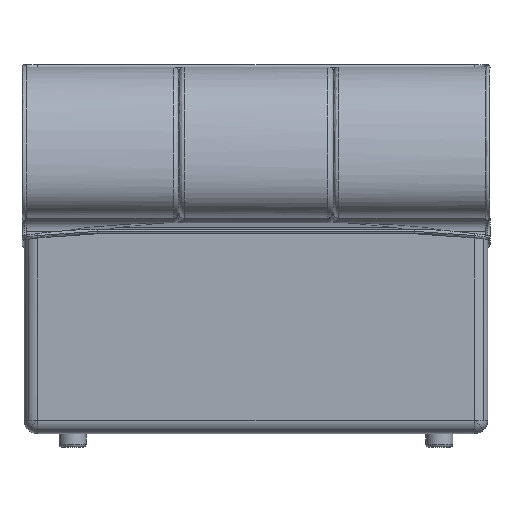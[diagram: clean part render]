
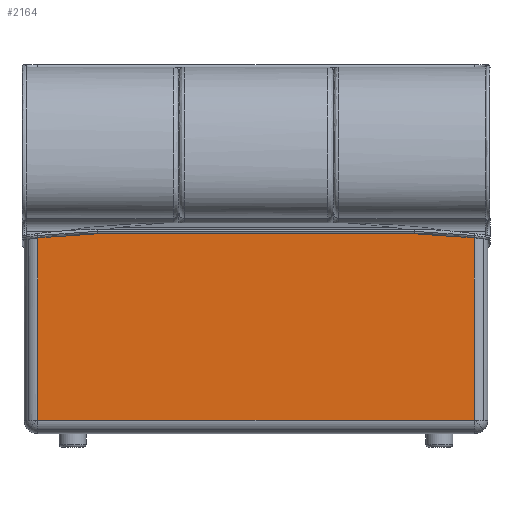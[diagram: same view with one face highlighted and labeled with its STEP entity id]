
A CAD part, front view. The second image highlights one B-rep face of the part: STEP entity #2164.
In plain terms, the highlighted planar face has unit normal (0, -1, 0).
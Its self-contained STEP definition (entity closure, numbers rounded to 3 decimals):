
#269 = VERTEX_POINT ( 'NONE', #5469 ) ;
#307 = EDGE_CURVE ( 'NONE', #2105, #6539, #4071, .T. ) ;
#342 = DIRECTION ( 'NONE',  ( 0., 0., 1. ) ) ;
#360 = CARTESIAN_POINT ( 'NONE',  ( -1294.447, -1880., 363.055 ) ) ;
#680 = DIRECTION ( 'NONE',  ( 1., 0., 0. ) ) ;
#935 = CARTESIAN_POINT ( 'NONE',  ( -1295., -1880., 25. ) ) ;
#951 = CARTESIAN_POINT ( 'NONE',  ( -1295., -1880., 362.978 ) ) ;
#1052 = CARTESIAN_POINT ( 'NONE',  ( -485., -1880., 25. ) ) ;
#1171 = CARTESIAN_POINT ( 'NONE',  ( -1184.008, -1880., 370.752 ) ) ;
#1372 = CARTESIAN_POINT ( 'NONE',  ( -1295., -1880., 362.978 ) ) ;
#1588 = B_SPLINE_CURVE_WITH_KNOTS ( 'NONE', 3,
 ( #7733, #2983, #2444, #3661 ),
 .UNSPECIFIED., .F., .F.,
 ( 4, 4 ),
 ( 0., 0.001 ),
 .UNSPECIFIED. ) ;
#1853 = ORIENTED_EDGE ( 'NONE', *, *, #7361, .F. ) ;
#1982 = CARTESIAN_POINT ( 'NONE',  ( -485., -1880., 399.775 ) ) ;
#2018 = CARTESIAN_POINT ( 'NONE',  ( -485., -1880., 362.979 ) ) ;
#2105 = VERTEX_POINT ( 'NONE', #8616 ) ;
#2161 = CARTESIAN_POINT ( 'NONE',  ( -1294.816, -1880., 363.004 ) ) ;
#2164 = ADVANCED_FACE ( 'NONE', ( #6772 ), #2710, .F. ) ;
#2384 = ORIENTED_EDGE ( 'NONE', *, *, #2988, .F. ) ;
#2431 = AXIS2_PLACEMENT_3D ( 'NONE', #5426, #4678, #680 ) ;
#2444 = CARTESIAN_POINT ( 'NONE',  ( -485.184, -1880., 363.005 ) ) ;
#2638 = CARTESIAN_POINT ( 'NONE',  ( -522.137, -1880., 368.159 ) ) ;
#2652 = ORIENTED_EDGE ( 'NONE', *, *, #307, .F. ) ;
#2653 = VECTOR ( 'NONE', #2975, 1000. ) ;
#2709 = EDGE_CURVE ( 'NONE', #269, #8562, #8746, .T. ) ;
#2710 = PLANE ( 'NONE',  #2431 ) ;
#2743 = CARTESIAN_POINT ( 'NONE',  ( -1184.008, -1880., 370.752 ) ) ;
#2795 = CARTESIAN_POINT ( 'NONE',  ( -595.992, -1880., 370.753 ) ) ;
#2969 = EDGE_CURVE ( 'NONE', #3393, #3008, #6477, .T. ) ;
#2975 = DIRECTION ( 'NONE',  ( 1., 0., 0. ) ) ;
#2983 = CARTESIAN_POINT ( 'NONE',  ( -485.368, -1880., 363.03 ) ) ;
#2988 = EDGE_CURVE ( 'NONE', #3008, #4535, #4345, .T. ) ;
#3008 = VERTEX_POINT ( 'NONE', #935 ) ;
#3186 = ORIENTED_EDGE ( 'NONE', *, *, #3764, .F. ) ;
#3393 = VERTEX_POINT ( 'NONE', #1052 ) ;
#3554 = CARTESIAN_POINT ( 'NONE',  ( -1294.631, -1880., 363.029 ) ) ;
#3629 = DIRECTION ( 'NONE',  ( -1., 0., 0. ) ) ;
#3661 = CARTESIAN_POINT ( 'NONE',  ( -485., -1880., 362.979 ) ) ;
#3717 = CARTESIAN_POINT ( 'NONE',  ( -578.519, -1880., 25. ) ) ;
#3764 = EDGE_CURVE ( 'NONE', #4535, #269, #6105, .T. ) ;
#4071 = B_SPLINE_CURVE_WITH_KNOTS ( 'NONE', 3,
 ( #2795, #8779, #2638, #8692 ),
 .UNSPECIFIED., .F., .F.,
 ( 4, 4 ),
 ( 0., 0.111 ),
 .UNSPECIFIED. ) ;
#4257 = CARTESIAN_POINT ( 'NONE',  ( -1295., -1880., 381.374 ) ) ;
#4313 = ORIENTED_EDGE ( 'NONE', *, *, #7154, .F. ) ;
#4345 = LINE ( 'NONE', #4257, #5355 ) ;
#4498 = LINE ( 'NONE', #5159, #2653 ) ;
#4535 = VERTEX_POINT ( 'NONE', #1372 ) ;
#4678 = DIRECTION ( 'NONE',  ( 0., 1., 0. ) ) ;
#4813 = CARTESIAN_POINT ( 'NONE',  ( -485.553, -1880., 363.056 ) ) ;
#5108 = ORIENTED_EDGE ( 'NONE', *, *, #2969, .F. ) ;
#5159 = CARTESIAN_POINT ( 'NONE',  ( -1184.008, -1880., 370.753 ) ) ;
#5244 = EDGE_LOOP ( 'NONE', ( #3186, #2384, #5108, #4313, #7260, #2652, #1853, #8157 ) ) ;
#5355 = VECTOR ( 'NONE', #342, 1000. ) ;
#5383 = LINE ( 'NONE', #1982, #6367 ) ;
#5426 = CARTESIAN_POINT ( 'NONE',  ( -757.038, -1880., 323.201 ) ) ;
#5469 = CARTESIAN_POINT ( 'NONE',  ( -1294.447, -1880., 363.055 ) ) ;
#6105 = B_SPLINE_CURVE_WITH_KNOTS ( 'NONE', 3,
 ( #951, #2161, #3554, #360 ),
 .UNSPECIFIED., .F., .F.,
 ( 4, 4 ),
 ( 0., 0.001 ),
 .UNSPECIFIED. ) ;
#6217 = CARTESIAN_POINT ( 'NONE',  ( -1294.447, -1880., 363.055 ) ) ;
#6341 = EDGE_CURVE ( 'NONE', #6539, #6637, #1588, .T. ) ;
#6367 = VECTOR ( 'NONE', #6774, 1000. ) ;
#6477 = LINE ( 'NONE', #3717, #7950 ) ;
#6539 = VERTEX_POINT ( 'NONE', #4813 ) ;
#6637 = VERTEX_POINT ( 'NONE', #2018 ) ;
#6772 = FACE_OUTER_BOUND ( 'NONE', #5244, .T. ) ;
#6774 = DIRECTION ( 'NONE',  ( 0., 0., -1. ) ) ;
#6886 = CARTESIAN_POINT ( 'NONE',  ( -1220.946, -1880., 370.751 ) ) ;
#7154 = EDGE_CURVE ( 'NONE', #6637, #3393, #5383, .T. ) ;
#7260 = ORIENTED_EDGE ( 'NONE', *, *, #6341, .F. ) ;
#7361 = EDGE_CURVE ( 'NONE', #8562, #2105, #4498, .T. ) ;
#7525 = CARTESIAN_POINT ( 'NONE',  ( -1257.863, -1880., 368.158 ) ) ;
#7733 = CARTESIAN_POINT ( 'NONE',  ( -485.553, -1880., 363.056 ) ) ;
#7950 = VECTOR ( 'NONE', #3629, 1000. ) ;
#8157 = ORIENTED_EDGE ( 'NONE', *, *, #2709, .F. ) ;
#8562 = VERTEX_POINT ( 'NONE', #1171 ) ;
#8616 = CARTESIAN_POINT ( 'NONE',  ( -595.992, -1880., 370.753 ) ) ;
#8692 = CARTESIAN_POINT ( 'NONE',  ( -485.553, -1880., 363.056 ) ) ;
#8746 = B_SPLINE_CURVE_WITH_KNOTS ( 'NONE', 3,
 ( #6217, #7525, #6886, #2743 ),
 .UNSPECIFIED., .F., .F.,
 ( 4, 4 ),
 ( 0., 0.111 ),
 .UNSPECIFIED. ) ;
#8779 = CARTESIAN_POINT ( 'NONE',  ( -559.054, -1880., 370.752 ) ) ;
